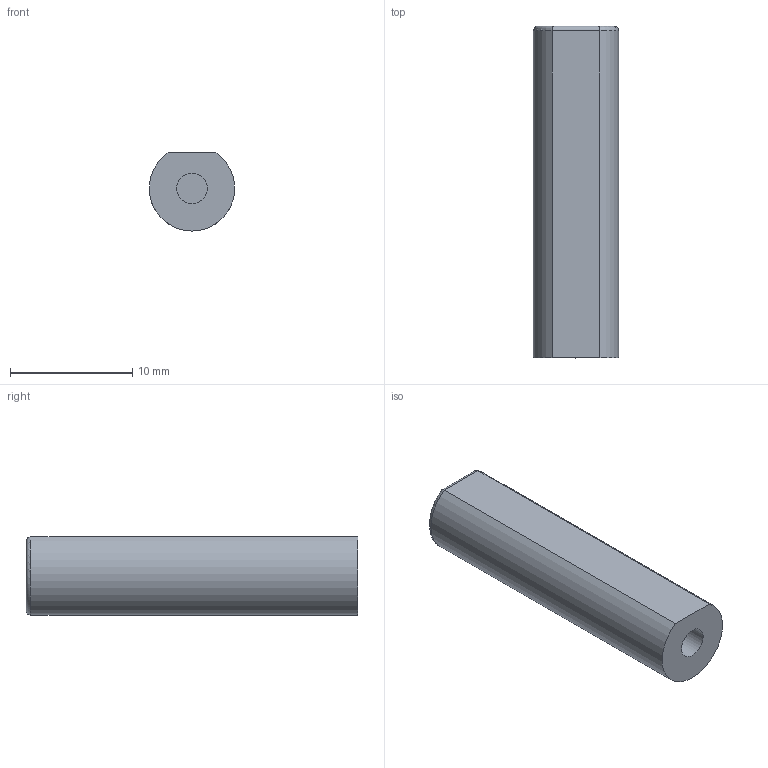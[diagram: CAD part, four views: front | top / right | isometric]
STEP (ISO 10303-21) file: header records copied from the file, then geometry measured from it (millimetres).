
FILE_DESCRIPTION(('Open CASCADE Model'),'2;1');
FILE_NAME('Open CASCADE Shape Model','2026-11-03T00:01:15',('Author'),( 'Open CASCADE'),'Open CASCADE STEP processor 8.0','build123d', 'Unknown');
FILE_SCHEMA(('AUTOMOTIVE_DESIGN { 1 0 10303 214 1 1 1 1 }'));
Length unit declared in the file: millimetre
Products named in the file (2): =>[0:1:1:2]; COMPOUND
Assembly tree (1 placements, depth 2):
  =>[0:1:1:2]
    COMPOUND
Bounding box: 6.99 x 27.19 x 6.4 mm (x, y, z)
Volume: 901 mm3; surface area: 804.5 mm2
Topology: 1 solids, 1 shells, 13 faces, 23 edges, 14 vertices
Faces by surface type: plane 6, cylinder 5, torus 2
Full cylindrical faces by diameter (mm): 2.5 x1
Entity records: 772 total; most frequent: CARTESIAN_POINT 284, DIRECTION 81, ORIENTED_EDGE 46, PCURVE 46, DEFINITIONAL_REPRESENTATION 46, LINE 31, VECTOR 31, B_SPLINE_CURVE_WITH_KNOTS 24
